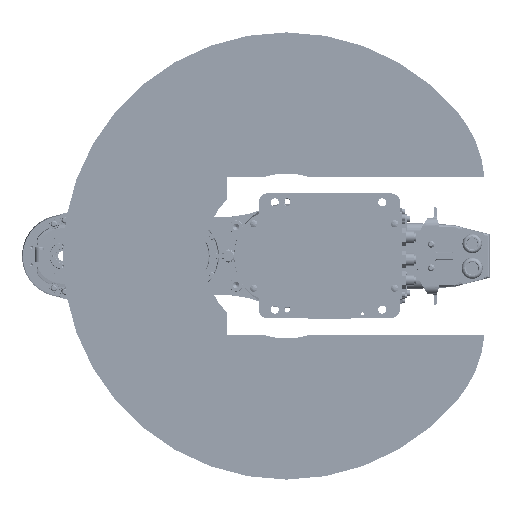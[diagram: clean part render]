
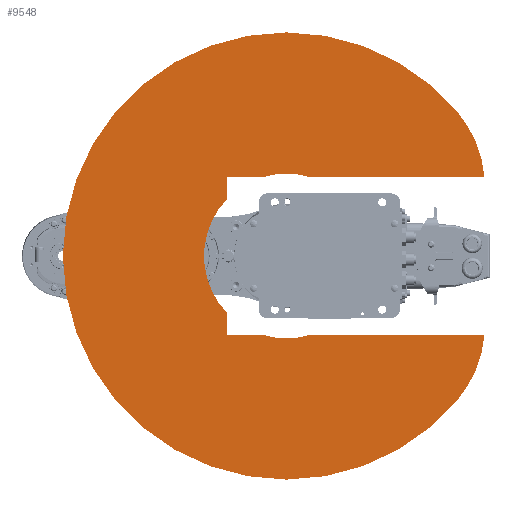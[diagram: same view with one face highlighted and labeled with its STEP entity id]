
A CAD part, front view. The second image highlights one B-rep face of the part: STEP entity #9548.
In plain terms, the highlighted planar face has unit normal (0, -1, 0).
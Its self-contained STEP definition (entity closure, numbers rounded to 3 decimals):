
#9548 = ADVANCED_FACE( '', ( #21544 ), #21545, .F. );
#21544 = FACE_OUTER_BOUND( '', #36716, .T. );
#21545 = PLANE( '', #36717 );
#36716 = EDGE_LOOP( '', ( #64298, #64299, #64300, #64301, #64302, #64303, #64304, #64305, #64306, #64307, #64308, #64309 ) );
#36717 = AXIS2_PLACEMENT_3D( '', #64310, #64311, #64312 );
#64298 = ORIENTED_EDGE( '', *, *, #82486, .T. );
#64299 = ORIENTED_EDGE( '', *, *, #80781, .F. );
#64300 = ORIENTED_EDGE( '', *, *, #87621, .F. );
#64301 = ORIENTED_EDGE( '', *, *, #87622, .F. );
#64302 = ORIENTED_EDGE( '', *, *, #87623, .T. );
#64303 = ORIENTED_EDGE( '', *, *, #84665, .T. );
#64304 = ORIENTED_EDGE( '', *, *, #85469, .T. );
#64305 = ORIENTED_EDGE( '', *, *, #87624, .T. );
#64306 = ORIENTED_EDGE( '', *, *, #87625, .T. );
#64307 = ORIENTED_EDGE( '', *, *, #84971, .T. );
#64308 = ORIENTED_EDGE( '', *, *, #84078, .T. );
#64309 = ORIENTED_EDGE( '', *, *, #86450, .T. );
#64310 = CARTESIAN_POINT( '', ( 38.567, 0., 45.963 ) );
#64311 = DIRECTION( '', ( 0., 1., 0. ) );
#64312 = DIRECTION( '', ( 0., 0., 1. ) );
#80781 = EDGE_CURVE( '', #96738, #96734, #96740, .T. );
#82486 = EDGE_CURVE( '', #99495, #96734, #99496, .T. );
#84078 = EDGE_CURVE( '', #101943, #101944, #101945, .T. );
#84665 = EDGE_CURVE( '', #102806, #102804, #102807, .T. );
#84971 = EDGE_CURVE( '', #103245, #101943, #103246, .T. );
#85469 = EDGE_CURVE( '', #102804, #103943, #103945, .T. );
#86450 = EDGE_CURVE( '', #101944, #99495, #105344, .T. );
#87621 = EDGE_CURVE( '', #106876, #96738, #106877, .T. );
#87622 = EDGE_CURVE( '', #106878, #106876, #106879, .T. );
#87623 = EDGE_CURVE( '', #106878, #102806, #106880, .T. );
#87624 = EDGE_CURVE( '', #103943, #106881, #106882, .T. );
#87625 = EDGE_CURVE( '', #106881, #103245, #106883, .T. );
#96734 = VERTEX_POINT( '', #120814 );
#96738 = VERTEX_POINT( '', #120819 );
#96740 = CIRCLE( '', #120822, 130. );
#99495 = VERTEX_POINT( '', #125395 );
#99496 = LINE( '', #125396, #125397 );
#101943 = VERTEX_POINT( '', #129639 );
#101944 = VERTEX_POINT( '', #129640 );
#101945 = LINE( '', #129641, #129642 );
#102804 = VERTEX_POINT( '', #131311 );
#102806 = VERTEX_POINT( '', #131314 );
#102807 = CIRCLE( '', #131315, 92.1 );
#103245 = VERTEX_POINT( '', #132037 );
#103246 = LINE( '', #132038, #132039 );
#103943 = VERTEX_POINT( '', #133159 );
#103945 = LINE( '', #133162, #133163 );
#105344 = CIRCLE( '', #135483, 92.1 );
#106876 = VERTEX_POINT( '', #138339 );
#106877 = CIRCLE( '', #138340, 250. );
#106878 = VERTEX_POINT( '', #138341 );
#106879 = CIRCLE( '', #138342, 130. );
#106880 = LINE( '', #138343, #138344 );
#106881 = VERTEX_POINT( '', #138345 );
#106882 = LINE( '', #138346, #138347 );
#106883 = CIRCLE( '', #138348, 92.1 );
#120814 = CARTESIAN_POINT( '', ( -88., 0., 221.47 ) );
#120819 = CARTESIAN_POINT( '', ( -160.697, 0., 191.511 ) );
#120822 = AXIS2_PLACEMENT_3D( '', #147156, #147157, #147158 );
#125395 = CARTESIAN_POINT( '', ( -88., 0., 27.174 ) );
#125396 = CARTESIAN_POINT( '', ( -88., 0., -66. ) );
#125397 = VECTOR( '', #149063, 1000. );
#129639 = CARTESIAN_POINT( '', ( -88., 0., -66. ) );
#129640 = CARTESIAN_POINT( '', ( -88., 0., -27.174 ) );
#129641 = CARTESIAN_POINT( '', ( -88., 0., -66. ) );
#129642 = VECTOR( '', #150781, 1000. );
#131311 = CARTESIAN_POINT( '', ( 88., 0., -27.174 ) );
#131314 = CARTESIAN_POINT( '', ( 88., 0., 27.174 ) );
#131315 = AXIS2_PLACEMENT_3D( '', #151343, #151344, #151345 );
#132037 = CARTESIAN_POINT( '', ( -64.237, 0., -66. ) );
#132038 = CARTESIAN_POINT( '', ( 88., 0., -66. ) );
#132039 = VECTOR( '', #151669, 1000. );
#133159 = CARTESIAN_POINT( '', ( 88., 0., -66. ) );
#133162 = CARTESIAN_POINT( '', ( 88., 0., 334. ) );
#133163 = VECTOR( '', #152170, 1000. );
#135483 = AXIS2_PLACEMENT_3D( '', #153253, #153254, #153255 );
#138339 = CARTESIAN_POINT( '', ( 160.697, 0., 191.511 ) );
#138340 = AXIS2_PLACEMENT_3D( '', #154238, #154239, #154240 );
#138341 = CARTESIAN_POINT( '', ( 88., 0., 221.47 ) );
#138342 = AXIS2_PLACEMENT_3D( '', #154241, #154242, #154243 );
#138343 = CARTESIAN_POINT( '', ( 88., 0., 334. ) );
#138344 = VECTOR( '', #154244, 1000. );
#138345 = CARTESIAN_POINT( '', ( 64.237, 0., -66. ) );
#138346 = CARTESIAN_POINT( '', ( 88., 0., -66. ) );
#138347 = VECTOR( '', #154245, 1000. );
#138348 = AXIS2_PLACEMENT_3D( '', #154246, #154247, #154248 );
#147156 = CARTESIAN_POINT( '', ( -77.135, 0., 91.925 ) );
#147157 = DIRECTION( '', ( 0., 1., 0. ) );
#147158 = DIRECTION( '', ( 1., 0., 0. ) );
#149063 = DIRECTION( '', ( 0., 0., 1. ) );
#150781 = DIRECTION( '', ( 0., 0., 1. ) );
#151343 = CARTESIAN_POINT( '', ( 0., 0., 0. ) );
#151344 = DIRECTION( '', ( 0., 1., 0. ) );
#151345 = DIRECTION( '', ( 1., 0., 0. ) );
#151669 = DIRECTION( '', ( -1., 0., 0. ) );
#152170 = DIRECTION( '', ( 0., 0., -1. ) );
#153253 = CARTESIAN_POINT( '', ( 0., 0., 0. ) );
#153254 = DIRECTION( '', ( 0., 1., 0. ) );
#153255 = DIRECTION( '', ( 1., 0., 0. ) );
#154238 = CARTESIAN_POINT( '', ( 0., 0., 0. ) );
#154239 = DIRECTION( '', ( 0., 1., 0. ) );
#154240 = DIRECTION( '', ( 1., 0., 0. ) );
#154241 = CARTESIAN_POINT( '', ( 77.135, 0., 91.925 ) );
#154242 = DIRECTION( '', ( 0., 1., 0. ) );
#154243 = DIRECTION( '', ( 1., 0., 0. ) );
#154244 = DIRECTION( '', ( 0., 0., -1. ) );
#154245 = DIRECTION( '', ( -1., 0., 0. ) );
#154246 = CARTESIAN_POINT( '', ( 0., 0., 0. ) );
#154247 = DIRECTION( '', ( 0., 1., 0. ) );
#154248 = DIRECTION( '', ( 1., 0., 0. ) );
